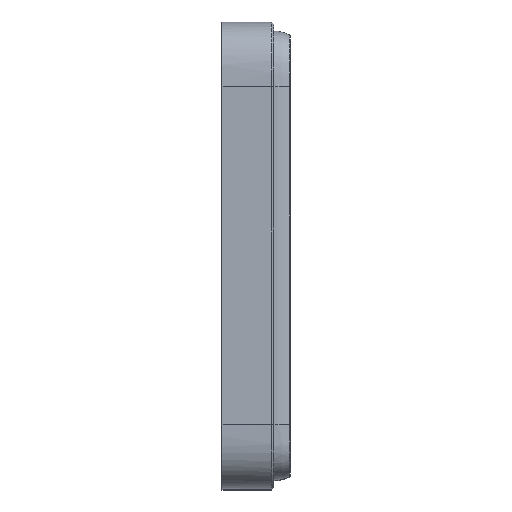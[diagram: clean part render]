
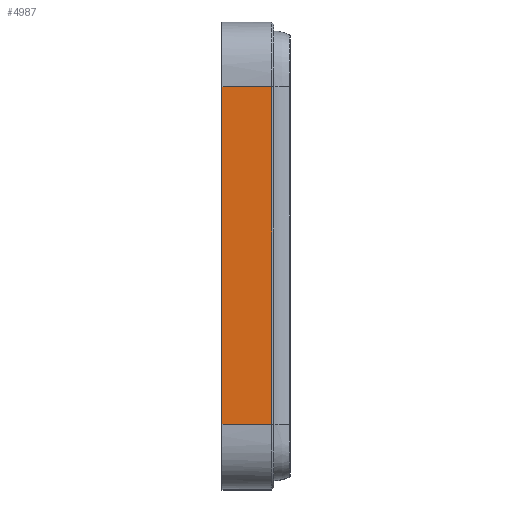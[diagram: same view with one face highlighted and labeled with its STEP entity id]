
A CAD part, top view. The second image highlights one B-rep face of the part: STEP entity #4987.
In plain terms, the highlighted planar face has unit normal (0, 0, 1).
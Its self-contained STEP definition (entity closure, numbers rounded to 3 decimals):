
#33=PLANE('',#5291);
#423=FACE_OUTER_BOUND('',#729,.T.);
#729=EDGE_LOOP('',(#4058,#4059,#4060,#4061));
#1487=LINE('',#11618,#1712);
#1545=LINE('',#13319,#1770);
#1565=LINE('',#13630,#1790);
#1566=LINE('',#13632,#1791);
#1712=VECTOR('',#5806,10.);
#1770=VECTOR('',#5908,10.);
#1790=VECTOR('',#5934,10.);
#1791=VECTOR('',#5937,10.);
#2166=VERTEX_POINT('',#11610);
#2167=VERTEX_POINT('',#11617);
#2280=VERTEX_POINT('',#13305);
#2281=VERTEX_POINT('',#13318);
#2780=EDGE_CURVE('',#2166,#2167,#1487,.T.);
#2938=EDGE_CURVE('',#2280,#2281,#1545,.T.);
#2967=EDGE_CURVE('',#2280,#2167,#1565,.T.);
#2968=EDGE_CURVE('',#2281,#2166,#1566,.T.);
#4058=ORIENTED_EDGE('',*,*,#2938,.F.);
#4059=ORIENTED_EDGE('',*,*,#2967,.T.);
#4060=ORIENTED_EDGE('',*,*,#2780,.F.);
#4061=ORIENTED_EDGE('',*,*,#2968,.F.);
#4987=ADVANCED_FACE('',(#423),#33,.T.);
#5291=AXIS2_PLACEMENT_3D('',#13631,#5935,#5936);
#5806=DIRECTION('',(0.,1.,0.));
#5908=DIRECTION('',(0.,-1.,0.));
#5934=DIRECTION('',(-1.,0.,0.));
#5935=DIRECTION('center_axis',(0.,0.,
1.));
#5936=DIRECTION('ref_axis',(0.,1.,0.));
#5937=DIRECTION('',(-1.,0.,0.));
#11610=CARTESIAN_POINT('',(-180.,-65.,116.5));
#11617=CARTESIAN_POINT('',(-180.,65.,116.5));
#11618=CARTESIAN_POINT('',(-180.,-65.,116.5));
#13305=CARTESIAN_POINT('',(-160.8,65.,116.5));
#13318=CARTESIAN_POINT('',(-160.8,-65.,116.5));
#13319=CARTESIAN_POINT('',(-160.8,10.775,116.5));
#13630=CARTESIAN_POINT('',(-160.,65.,116.5));
#13631=CARTESIAN_POINT('Origin',(-160.,-65.,116.5));
#13632=CARTESIAN_POINT('',(-160.,-65.,116.5));
